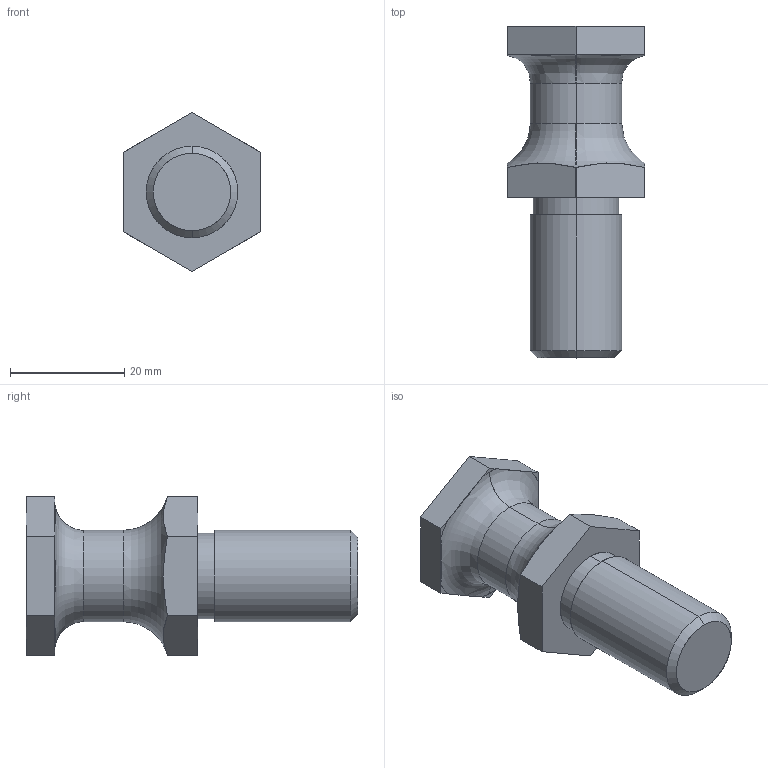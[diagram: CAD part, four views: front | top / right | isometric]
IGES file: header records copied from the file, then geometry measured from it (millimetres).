
Start section: START RECORD GO HERE.
Global section: file name: 395P-02-016-016.igs; native system: DASSAULT SYSTEMES CATIA V5 R20 - www.3ds.com; preprocessor: CATIA Version 5 Release 20 ; author: Utente; organization: NB04-ASUS; date: 20200409.204937; units: millimetre
Bounding box: 24 x 58 x 27.71 mm (x, y, z)
Surface area: 4653 mm2 (no closed solid volume)
Topology: 0 solids, 0 shells, 34 faces, 175 edges, 175 vertices
Faces by surface type: extrusion 22, revolution 12
